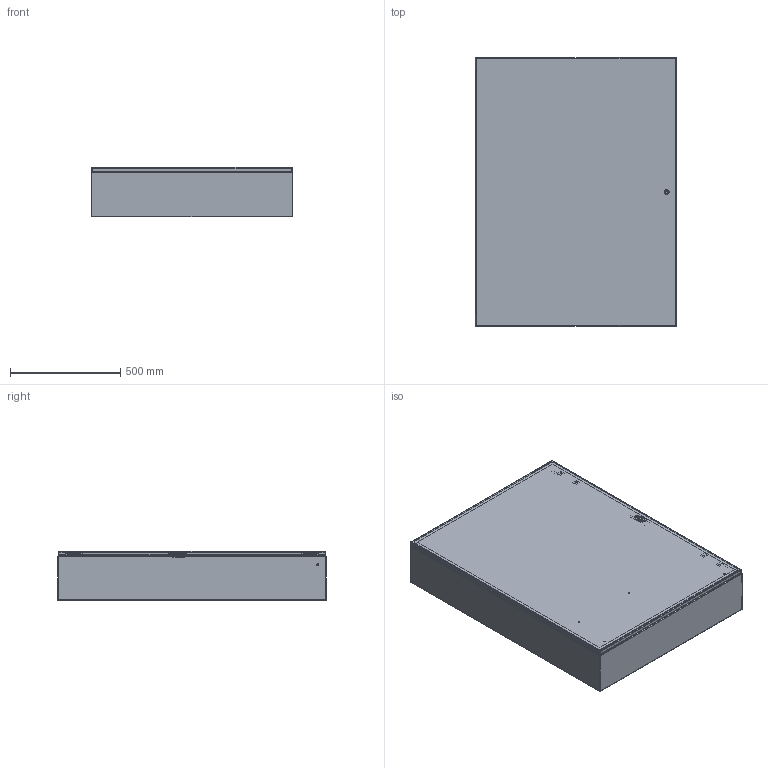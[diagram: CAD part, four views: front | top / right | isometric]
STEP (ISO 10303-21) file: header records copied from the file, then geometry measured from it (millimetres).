
FILE_DESCRIPTION (( 'STEP AP203' ), '1' );
FILE_NAME ('29435.step', '2015-03-30T06:39:34', ( '' ), ( '' ), 'SwSTEP 2.0', 'SolidWorks 2010', '' );
FILE_SCHEMA (( 'CONFIG_CONTROL_DESIGN' ));
Length unit declared in the file: inch
Products named in the file (34): 23271001_After Weld; 87937953_assy; 87937993_weldment; 87936152; 99401225; 51123001_Post weld; 87931362_87931362; 87408408_Unlocked; 64102001_Latch Open; 87540678; 64210001; 64202001; 64208001; 64205001; 87541995; 87541994_Installed Height; 64206005; 64207001; 64103001; 99411834; 87555298; 87938014; 87543027; 89076399; 89076193; 89056623; 87929507; 87929767; 87929769_Installed on Pin; 29435; 89117215; 89117214_default; 89117174_default; 89117173_default
Assembly tree (55 placements, depth 5):
  29435
    87543027  x3
    87929507  x3
      87929769_Installed on Pin
      87929767
    87937953_assy
      87938014
      87555298
      87937993_weldment
        99401225
        87936152
        87931362_87931362  x2
        51123001_Post weld
      87408408_Unlocked
        64206005  x2
        64103001  x4
        64207001  x2
        99411834  x2
        64102001_Latch Open
          64208001
          64210001
          64202001
          87540678
          87541994_Installed Height
          64205001  x2
          87541995
    89117215
      89117214_default
      23271001_After Weld  x8
      99401225
      89117173_default
      89117174_default
    89076399  x3
      89056623
      89076193
Bounding box: 914.4 x 1219.2 x 223.9 mm (x, y, z)
Volume: 6373967.1 mm3; surface area: 6824232.1 mm2
Topology: 53 solids, 53 shells, 3365 faces, 8717 edges, 5485 vertices
Faces by surface type: plane 1475, cylinder 927, bspline 642, torus 183, cone 101, sphere 37
Entity records: 74082 total; most frequent: CARTESIAN_POINT 26486, ORIENTED_EDGE 9486, DIRECTION 8333, EDGE_CURVE 4743, VERTEX_POINT 2998, AXIS2_PLACEMENT_3D 2829, VECTOR 2675, LINE 2675
